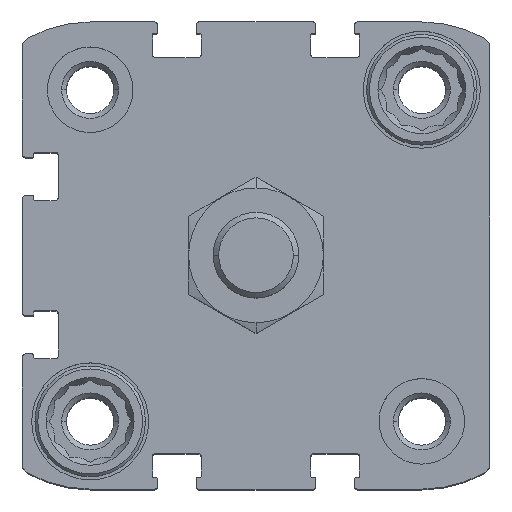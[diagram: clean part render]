
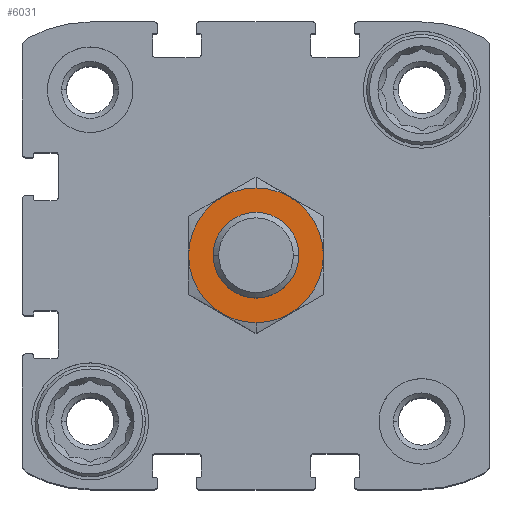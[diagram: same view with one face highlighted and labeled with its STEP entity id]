
A CAD part, top view. The second image highlights one B-rep face of the part: STEP entity #6031.
In plain terms, the highlighted planar face has unit normal (0, 0, 1).
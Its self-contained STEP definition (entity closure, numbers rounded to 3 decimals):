
#434 = AXIS2_PLACEMENT_3D ( 'NONE', #8834, #3893, #3816 ) ;
#443 = CARTESIAN_POINT ( 'NONE',  ( 0., 0., 19.5 ) ) ;
#527 = DIRECTION ( 'NONE',  ( 0., 0., -1. ) ) ;
#2090 = CARTESIAN_POINT ( 'NONE',  ( 0., 0., 19.5 ) ) ;
#2329 = AXIS2_PLACEMENT_3D ( 'NONE', #11674, #4038, #2629 ) ;
#2629 = DIRECTION ( 'NONE',  ( 0., 1., 0. ) ) ;
#2816 = CARTESIAN_POINT ( 'NONE',  ( 0., -9.45, 19.5 ) ) ;
#3081 = PLANE ( 'NONE',  #7624 ) ;
#3816 = DIRECTION ( 'NONE',  ( 0., 1., 0. ) ) ;
#3893 = DIRECTION ( 'NONE',  ( 0., 0., -1. ) ) ;
#4009 = CIRCLE ( 'NONE', #2329, 9.45 ) ;
#4038 = DIRECTION ( 'NONE',  ( 0., 0., -1. ) ) ;
#4622 = DIRECTION ( 'NONE',  ( 0., 1., 0. ) ) ;
#4895 = EDGE_LOOP ( 'NONE', ( #13177, #12628 ) ) ;
#5761 = DIRECTION ( 'NONE',  ( 0., 0., -1. ) ) ;
#6031 = ADVANCED_FACE ( 'NONE', ( #8633, #11330 ), #3081, .F. ) ;
#6143 = CARTESIAN_POINT ( 'NONE',  ( 0., 6., 19.5 ) ) ;
#6721 = VERTEX_POINT ( 'NONE', #10092 ) ;
#7135 = ORIENTED_EDGE ( 'NONE', *, *, #9803, .F. ) ;
#7336 = CARTESIAN_POINT ( 'NONE',  ( 0., 0., 19.5 ) ) ;
#7624 = AXIS2_PLACEMENT_3D ( 'NONE', #7336, #16397, #8550 ) ;
#8226 = EDGE_CURVE ( 'NONE', #6721, #16490, #12534, .T. ) ;
#8550 = DIRECTION ( 'NONE',  ( 0., 1., 0. ) ) ;
#8586 = AXIS2_PLACEMENT_3D ( 'NONE', #2090, #527, #4622 ) ;
#8633 = FACE_OUTER_BOUND ( 'NONE', #9812, .T. ) ;
#8834 = CARTESIAN_POINT ( 'NONE',  ( 0., 0., 19.5 ) ) ;
#8861 = CIRCLE ( 'NONE', #8586, 6. ) ;
#9501 = CARTESIAN_POINT ( 'NONE',  ( 0., 9.45, 19.5 ) ) ;
#9713 = ORIENTED_EDGE ( 'NONE', *, *, #16969, .F. ) ;
#9803 = EDGE_CURVE ( 'NONE', #15319, #15304, #16550, .T. ) ;
#9812 = EDGE_LOOP ( 'NONE', ( #7135, #9713 ) ) ;
#10092 = CARTESIAN_POINT ( 'NONE',  ( 0., -6., 19.5 ) ) ;
#11330 = FACE_BOUND ( 'NONE', #4895, .T. ) ;
#11674 = CARTESIAN_POINT ( 'NONE',  ( 0., 0., 19.5 ) ) ;
#11776 = EDGE_CURVE ( 'NONE', #16490, #6721, #8861, .T. ) ;
#12534 = CIRCLE ( 'NONE', #14763, 6. ) ;
#12628 = ORIENTED_EDGE ( 'NONE', *, *, #11776, .T. ) ;
#13177 = ORIENTED_EDGE ( 'NONE', *, *, #8226, .T. ) ;
#14763 = AXIS2_PLACEMENT_3D ( 'NONE', #443, #5761, #16356 ) ;
#15304 = VERTEX_POINT ( 'NONE', #2816 ) ;
#15319 = VERTEX_POINT ( 'NONE', #9501 ) ;
#16356 = DIRECTION ( 'NONE',  ( 0., 1., 0. ) ) ;
#16397 = DIRECTION ( 'NONE',  ( 0., 0., -1. ) ) ;
#16490 = VERTEX_POINT ( 'NONE', #6143 ) ;
#16550 = CIRCLE ( 'NONE', #434, 9.45 ) ;
#16969 = EDGE_CURVE ( 'NONE', #15304, #15319, #4009, .T. ) ;
